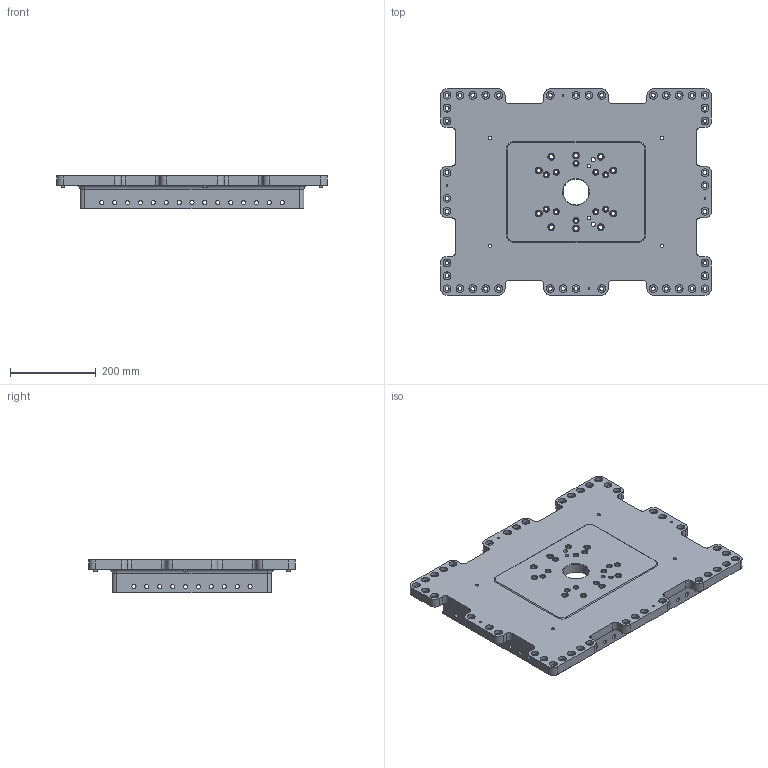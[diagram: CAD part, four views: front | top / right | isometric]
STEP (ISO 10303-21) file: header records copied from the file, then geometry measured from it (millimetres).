
FILE_DESCRIPTION(('STEP AP214'),'1');
FILE_NAME('EGT017_1_1706162_H-RAHMEN_450X600_SW80.CATPart.stp','2015-09-18T08:05:37',('3D-Tool'),(' '),'Spatial InterOp 3D',' ',' ');
FILE_SCHEMA(('automotive_design'));
Length unit declared in the file: millimetre
Products named in the file (25): EGT017_1_1706162_H-RAHMEN_450X600_SW80|EGT017_H-RAHMEN_450X600_SW80|Bohrbearbeitung; EGT017_1_1706162_H-RAHMEN_450X600_SW80|EGT212_Zentrierstift_1|Chamfer.5; EGT017_1_1706162_H-RAHMEN_450X600_SW80|EGT212_Zentrierstift_2|Chamfer.7; EGT017_1_1706162_H-RAHMEN_450X600_SW80|EGT212_Zentrierstift_3|Chamfer.8; EGT017_1_1706162_H-RAHMEN_450X600_SW80|EGT212_Zentrierstift_4|Chamfer.9; 1; 2; 3; 4; 5; 6; 7; 8; 9; 10; 11; 12; 13; 14; 15; 16; 17; 18; 19; 20
Bounding box: 630 x 480 x 79 mm (x, y, z)
Volume: 7852442 mm3; surface area: 888405 mm2
Topology: 25 solids, 25 shells, 1210 faces, 3199 edges, 2088 vertices
Faces by surface type: cylinder 892, plane 171, cone 131, torus 12, bspline 4
Entity records: 49879 total; most frequent: DIRECTION 7595, CARTESIAN_POINT 7211, ORIENTED_EDGE 6390, EDGE_CURVE 3195, AXIS2_PLACEMENT_3D 3194, VERTEX_POINT 2088, CIRCLE 1963, EDGE_LOOP 1561
